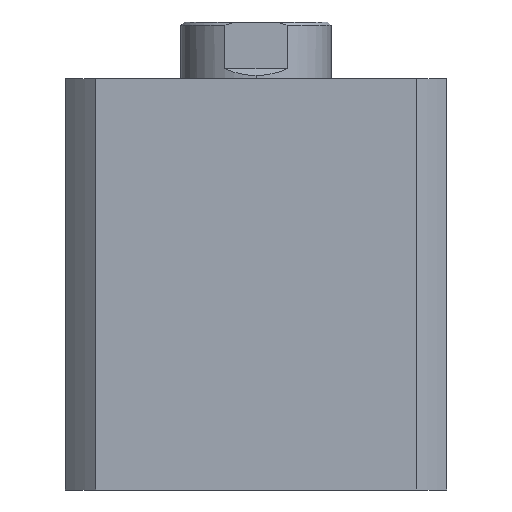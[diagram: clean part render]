
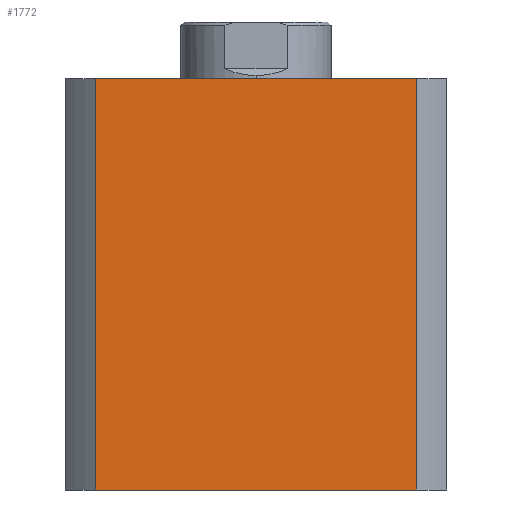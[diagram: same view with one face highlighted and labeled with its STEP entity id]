
A CAD part, left-side view. The second image highlights one B-rep face of the part: STEP entity #1772.
In plain terms, the highlighted planar face has unit normal (-1, 0, 0).
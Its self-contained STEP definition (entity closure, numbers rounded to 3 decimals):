
#139 = DIRECTION ( 'NONE',  ( 0., 0., -1. ) ) ;
#156 = CARTESIAN_POINT ( 'NONE',  ( -57., 47.971, 123. ) ) ;
#523 = CARTESIAN_POINT ( 'NONE',  ( -57., 0., 123. ) ) ;
#571 = DIRECTION ( 'NONE',  ( 0., -1., 0. ) ) ;
#588 = DIRECTION ( 'NONE',  ( 0., -1., 0. ) ) ;
#596 = CARTESIAN_POINT ( 'NONE',  ( -57., 0., 0. ) ) ;
#600 = DIRECTION ( 'NONE',  ( 0., 0., -1. ) ) ;
#620 = CARTESIAN_POINT ( 'NONE',  ( -57., -47.971, 123. ) ) ;
#659 = ORIENTED_EDGE ( 'NONE', *, *, #1472, .F. ) ;
#660 = ORIENTED_EDGE ( 'NONE', *, *, #1459, .F. ) ;
#661 = ORIENTED_EDGE ( 'NONE', *, *, #1418, .T. ) ;
#952 = ORIENTED_EDGE ( 'NONE', *, *, #1443, .T. ) ;
#1060 = VERTEX_POINT ( 'NONE', #3860 ) ;
#1104 = VERTEX_POINT ( 'NONE', #3808 ) ;
#1418 = EDGE_CURVE ( 'NONE', #4748, #4749, #4825, .T. ) ;
#1443 = EDGE_CURVE ( 'NONE', #1104, #4748, #4857, .T. ) ;
#1459 = EDGE_CURVE ( 'NONE', #1060, #4749, #4879, .T. ) ;
#1472 = EDGE_CURVE ( 'NONE', #1104, #1060, #4899, .T. ) ;
#1772 = ADVANCED_FACE ( 'NONE', ( #1935 ), #4574, .F. ) ;
#1935 = FACE_OUTER_BOUND ( 'NONE', #2155, .T. ) ;
#2155 = EDGE_LOOP ( 'NONE', ( #661, #660, #659, #952 ) ) ;
#2921 = AXIS2_PLACEMENT_3D ( 'NONE', #4576, #4571, #4570 ) ;
#3808 = CARTESIAN_POINT ( 'NONE',  ( -57., 47.971, 123. ) ) ;
#3860 = CARTESIAN_POINT ( 'NONE',  ( -57., -47.971, 123. ) ) ;
#3991 = CARTESIAN_POINT ( 'NONE',  ( -57., 47.971, 0. ) ) ;
#3992 = CARTESIAN_POINT ( 'NONE',  ( -57., -47.971, 0. ) ) ;
#4570 = DIRECTION ( 'NONE',  ( 0., 0., -1. ) ) ;
#4571 = DIRECTION ( 'NONE',  ( 1., 0., 0. ) ) ;
#4574 = PLANE ( 'NONE',  #2921 ) ;
#4576 = CARTESIAN_POINT ( 'NONE',  ( -57., 0., 123. ) ) ;
#4748 = VERTEX_POINT ( 'NONE', #3991 ) ;
#4749 = VERTEX_POINT ( 'NONE', #3992 ) ;
#4825 = LINE ( 'NONE', #596, #4828 ) ;
#4828 = VECTOR ( 'NONE', #588, 1000. ) ;
#4857 = LINE ( 'NONE', #156, #4861 ) ;
#4861 = VECTOR ( 'NONE', #139, 1000. ) ;
#4879 = LINE ( 'NONE', #620, #4883 ) ;
#4883 = VECTOR ( 'NONE', #600, 1000. ) ;
#4899 = LINE ( 'NONE', #523, #4903 ) ;
#4903 = VECTOR ( 'NONE', #571, 1000. ) ;
